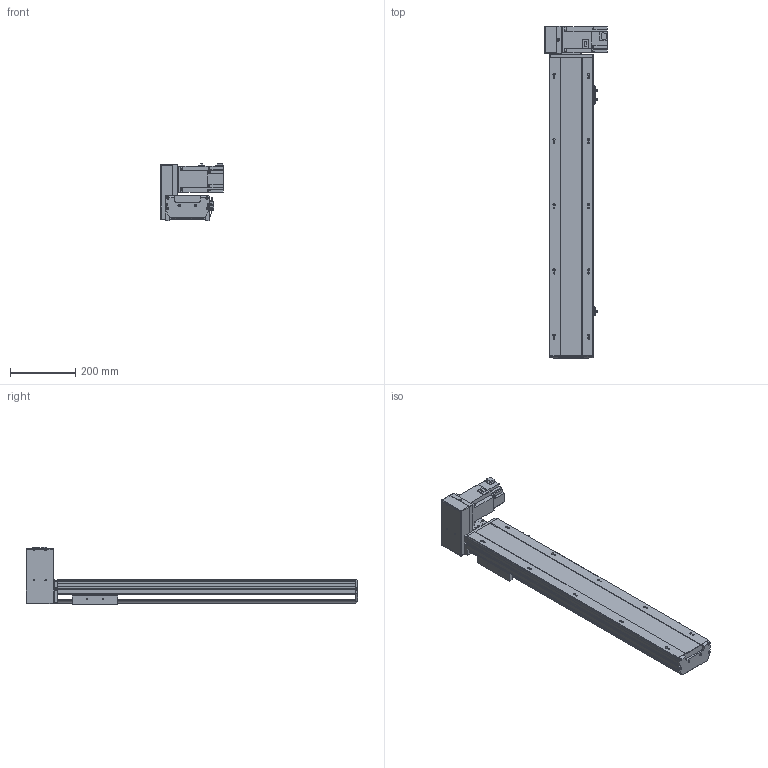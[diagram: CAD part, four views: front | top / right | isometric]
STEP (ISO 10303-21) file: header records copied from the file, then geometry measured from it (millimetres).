
FILE_DESCRIPTION (( 'STEP AP203' ), '1' );
FILE_NAME ('13.STEP', '2020-10-27T10:17:01', ( '' ), ( '' ), 'SwSTEP 2.0', 'SolidWorks 2016', '' );
FILE_SCHEMA (( 'CONFIG_CONTROL_DESIGN' ));
Length unit declared in the file: millimetre
Products named in the file (12): BTB14-LD-01; FS-08-T75; BTB14-LD-T75; BTB14-LD-23; BTB14-LD-24; BTB14-LD-菁釱; BTB14-LD-HZ; FS-33-T75; BTB14-LD-06; FS-07-T75; BTB14-LD-04; 13
Assembly tree (14 placements, depth 2):
  13
    BTB14-LD-菁釱
    BTB14-LD-01
    BTB14-LD-04  x3
    BTB14-LD-06
    BTB14-LD-23  x2
    BTB14-LD-24
    BTB14-LD-HZ
    FS-07-T75
    FS-08-T75
    FS-33-T75
    BTB14-LD-T75
Bounding box: 191.8 x 1018 x 176.1 mm (x, y, z)
Volume: 5304063.8 mm3; surface area: 1084638.9 mm2
Topology: 24 solids, 24 shells, 1762 faces, 4635 edges, 2980 vertices
Faces by surface type: plane 1033, cylinder 474, bspline 127, cone 116, torus 12
Entity records: 52024 total; most frequent: CARTESIAN_POINT 16275, ORIENTED_EDGE 7208, DIRECTION 6902, EDGE_CURVE 3604, VECTOR 2456, LINE 2456, VERTEX_POINT 2358, AXIS2_PLACEMENT_3D 2223
